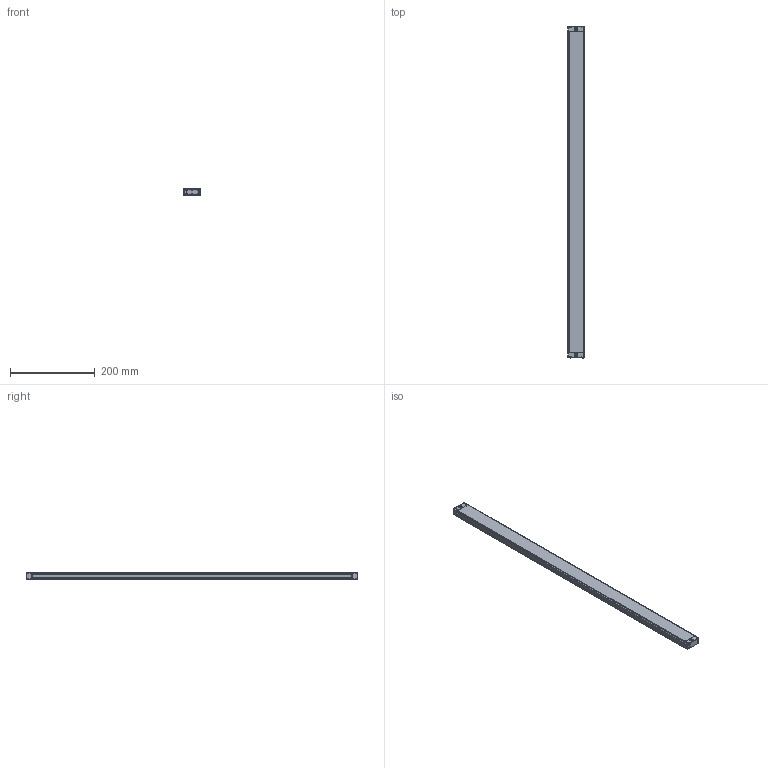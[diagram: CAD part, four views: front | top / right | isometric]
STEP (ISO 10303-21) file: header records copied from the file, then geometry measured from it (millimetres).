
FILE_DESCRIPTION((''),'2;1');
FILE_NAME('EB15--3610_ASM','2021-07-22T10:15:20',('18720616900'),(''),'CREO PARAMETRIC BY PTC INC, 2019010','CREO PARAMETRIC BY PTC INC, 2019010','');
FILE_SCHEMA(('CONFIG_CONTROL_DESIGN'));
Length unit declared in the file: millimetre
Products named in the file (6): EB15-00; EB15-000; EB15-0003; EB15-0004; ST-3-12; EB15--3610_ASM
Assembly tree (12 placements, depth 2):
  EB15--3610_ASM
    EB15-00
    EB15-000
    EB15-0003
    EB15-0004
    ST-3-12  x8
Bounding box: 39.15 x 785 x 15.8 mm (x, y, z)
Volume: 471634.2 mm3; surface area: 115684.8 mm2
Topology: 12 solids, 12 shells, 827 faces, 2188 edges, 1368 vertices
Faces by surface type: plane 242, bspline 188, cone 176, cylinder 165, torus 40, sphere 16
Entity records: 16044 total; most frequent: CARTESIAN_POINT 7660, ORIENTED_EDGE 1804, DIRECTION 1603, EDGE_CURVE 902, AXIS2_PLACEMENT_3D 577, VERTEX_POINT 563, VECTOR 449, LINE 449
